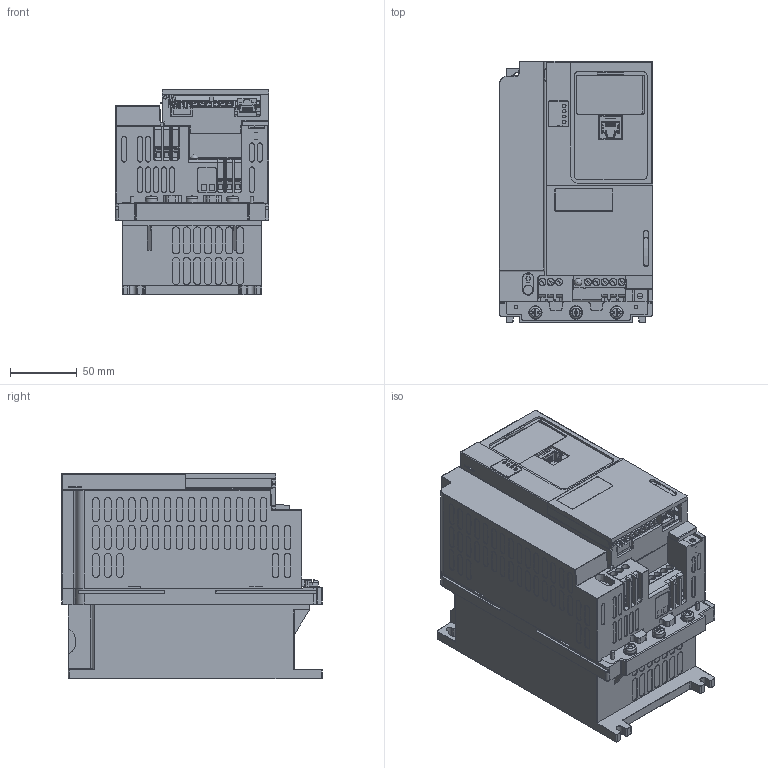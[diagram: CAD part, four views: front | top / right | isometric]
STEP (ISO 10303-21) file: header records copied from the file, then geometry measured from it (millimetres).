
FILE_DESCRIPTION(/* description */ (''),/* implementation_level */ '2;1');
FILE_NAME(/* name */ 'ATH600_S0_IP20_3D-simpl.stp',/* time_stamp */ '2026-02-05T14:07:13+01:00',/* author */ (''),/* organization */ (''),/* preprocessor_version */ 'ST-DEVELOPER v16.7',/* originating_system */ 'SIEMENS PLM Software NX 12.0',/* authorisation */ '');
FILE_SCHEMA (('AUTOMOTIVE_DESIGN { 1 0 10303 214 3 1 1 1 }'));
Products named in the file (1): ATH600_S0_IP20_3D-simpl_step
Bounding box: 115 x 196 x 154.65 mm (x, y, z)
Volume: 2485170.1 mm3; surface area: 336378.1 mm2
Topology: 5 solids, 5 shells, 4212 faces, 11382 edges, 7379 vertices
Faces by surface type: plane 2988, cylinder 868, bspline 162, cone 148, torus 33, sphere 13
Entity records: 144236 total; most frequent: CARTESIAN_POINT 39094, ORIENTED_EDGE 22760, DIRECTION 20376, EDGE_CURVE 11380, LINE 8758, VECTOR 8758, VERTEX_POINT 7378, AXIS2_PLACEMENT_3D 5809
